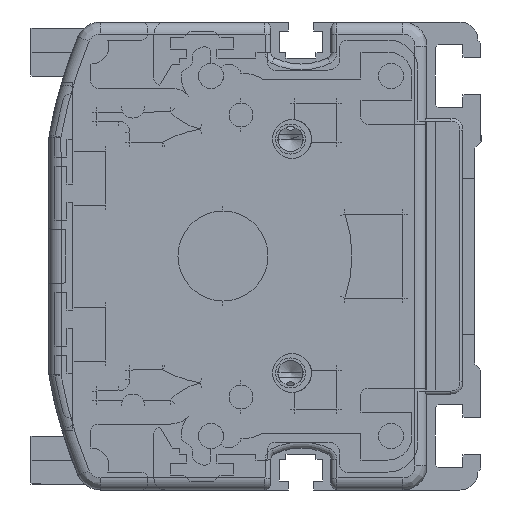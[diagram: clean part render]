
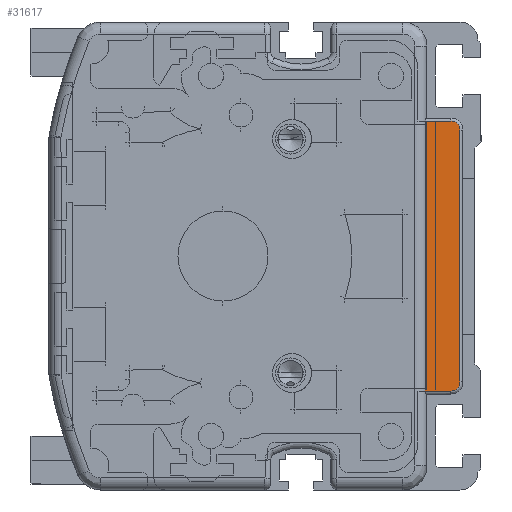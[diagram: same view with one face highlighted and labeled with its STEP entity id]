
A CAD part, left-side view. The second image highlights one B-rep face of the part: STEP entity #31617.
In plain terms, the highlighted planar face has unit normal (-1, 0, 0).
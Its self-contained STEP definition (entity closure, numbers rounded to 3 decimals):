
#26172=DIRECTION('',(0.,0.,-1.));
#26173=VECTOR('',#26172,45.);
#26174=CARTESIAN_POINT('',(-2.,9.268,22.5));
#26175=LINE('',#26174,#26173);
#26207=CARTESIAN_POINT('',(-2.,5.,21.));
#26208=DIRECTION('',(1.,0.,0.));
#26209=DIRECTION('',(0.,0.,1.));
#26210=AXIS2_PLACEMENT_3D('',#26207,#26208,#26209);
#26212=CARTESIAN_POINT('',(-2.,5.,-21.));
#26213=DIRECTION('',(1.,0.,0.));
#26214=DIRECTION('',(0.,-1.,0.));
#26215=AXIS2_PLACEMENT_3D('',#26212,#26213,#26214);
#26221=DIRECTION('',(0.,-1.,0.));
#26222=VECTOR('',#26221,4.268);
#26223=CARTESIAN_POINT('',(-2.,9.268,-22.5));
#26224=LINE('',#26223,#26222);
#26755=DIRECTION('',(0.,0.,1.));
#26756=VECTOR('',#26755,42.);
#26757=CARTESIAN_POINT('',(-2.,3.5,-21.));
#26758=LINE('',#26757,#26756);
#26778=DIRECTION('',(0.,1.,0.));
#26779=VECTOR('',#26778,4.268);
#26780=CARTESIAN_POINT('',(-2.,5.,22.5));
#26781=LINE('',#26780,#26779);
#30064=CARTESIAN_POINT('',(-2.,9.268,22.5));
#30065=CARTESIAN_POINT('',(-2.,9.268,-22.5));
#30066=VERTEX_POINT('',#30064);
#30067=VERTEX_POINT('',#30065);
#30077=CARTESIAN_POINT('',(-2.,5.,-22.5));
#30078=VERTEX_POINT('',#30077);
#30079=CARTESIAN_POINT('',(-2.,3.5,-21.));
#30080=VERTEX_POINT('',#30079);
#30081=CARTESIAN_POINT('',(-2.,3.5,21.));
#30082=VERTEX_POINT('',#30081);
#30083=CARTESIAN_POINT('',(-2.,5.,22.5));
#30084=VERTEX_POINT('',#30083);
#31599=CARTESIAN_POINT('',(-2.,6.384,0.));
#31600=DIRECTION('',(1.,0.,0.));
#31601=DIRECTION('',(0.,0.,-1.));
#31602=AXIS2_PLACEMENT_3D('',#31599,#31600,#31601);
#31603=PLANE('',#31602);
#31605=ORIENTED_EDGE('',*,*,#31604,.F.);
#31606=ORIENTED_EDGE('',*,*,#31578,.F.);
#31608=ORIENTED_EDGE('',*,*,#31607,.F.);
#31610=ORIENTED_EDGE('',*,*,#31609,.T.);
#31612=ORIENTED_EDGE('',*,*,#31611,.F.);
#31614=ORIENTED_EDGE('',*,*,#31613,.T.);
#31615=EDGE_LOOP('',(#31605,#31606,#31608,#31610,#31612,#31614));
#31616=FACE_OUTER_BOUND('',#31615,.F.);
#31617=ADVANCED_FACE('',(#31616),#31603,.F.);
#26211=CIRCLE('',#26210,1.5);
#26216=CIRCLE('',#26215,1.5);
#31578=EDGE_CURVE('',#30066,#30067,#26175,.T.);
#31604=EDGE_CURVE('',#30067,#30078,#26224,.T.);
#31607=EDGE_CURVE('',#30084,#30066,#26781,.T.);
#31609=EDGE_CURVE('',#30084,#30082,#26211,.T.);
#31611=EDGE_CURVE('',#30080,#30082,#26758,.T.);
#31613=EDGE_CURVE('',#30080,#30078,#26216,.T.);
